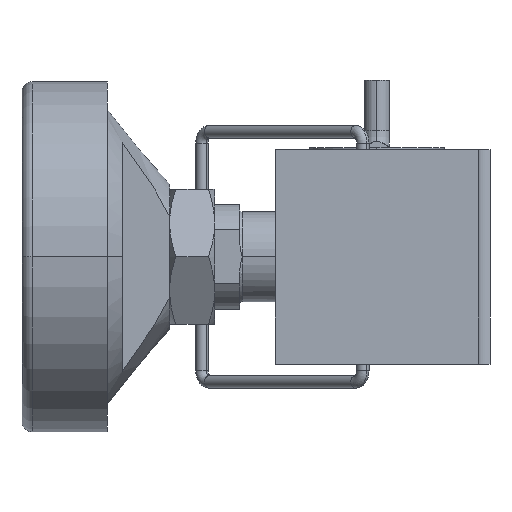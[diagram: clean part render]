
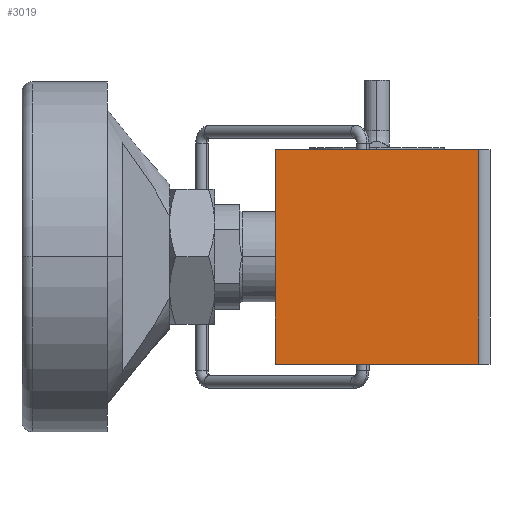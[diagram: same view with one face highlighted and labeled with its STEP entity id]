
A CAD part, left-side view. The second image highlights one B-rep face of the part: STEP entity #3019.
In plain terms, the highlighted planar face has unit normal (-1, 0, 0).
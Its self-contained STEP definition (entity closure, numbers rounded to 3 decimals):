
#649=DIRECTION('',(0.,1.,0.));
#650=VECTOR('',#649,40.488);
#651=CARTESIAN_POINT('',(0.,2.388,21.438));
#652=LINE('',#651,#650);
#780=DIRECTION('',(0.,1.,0.));
#781=VECTOR('',#780,40.488);
#782=CARTESIAN_POINT('',(0.,2.388,-21.438));
#783=LINE('',#782,#781);
#784=DIRECTION('',(0.,0.,-1.));
#785=VECTOR('',#784,42.875);
#786=CARTESIAN_POINT('',(0.,2.388,21.438));
#787=LINE('',#786,#785);
#792=DIRECTION('',(0.,0.,-1.));
#793=VECTOR('',#792,42.875);
#794=CARTESIAN_POINT('',(0.,42.875,21.438));
#795=LINE('',#794,#793);
#1774=CARTESIAN_POINT('',(0.,2.388,-21.438));
#1776=VERTEX_POINT('',#1774);
#1783=CARTESIAN_POINT('',(0.,42.875,-21.438));
#1784=VERTEX_POINT('',#1783);
#1803=CARTESIAN_POINT('',(0.,2.388,21.438));
#1804=VERTEX_POINT('',#1803);
#1805=CARTESIAN_POINT('',(0.,42.875,21.438));
#1806=VERTEX_POINT('',#1805);
#3007=CARTESIAN_POINT('',(0.,42.875,-21.438));
#3008=DIRECTION('',(-1.,0.,0.));
#3009=DIRECTION('',(0.,-1.,0.));
#3010=AXIS2_PLACEMENT_3D('',#3007,#3008,#3009);
#3011=PLANE('',#3010);
#3012=ORIENTED_EDGE('',*,*,#2977,.T.);
#3014=ORIENTED_EDGE('',*,*,#3013,.F.);
#3015=ORIENTED_EDGE('',*,*,#2890,.F.);
#3016=ORIENTED_EDGE('',*,*,#3001,.T.);
#3017=EDGE_LOOP('',(#3012,#3014,#3015,#3016));
#3018=FACE_OUTER_BOUND('',#3017,.F.);
#3019=ADVANCED_FACE('',(#3018),#3011,.T.);
#2890=EDGE_CURVE('',#1804,#1806,#652,.T.);
#2977=EDGE_CURVE('',#1776,#1784,#783,.T.);
#3001=EDGE_CURVE('',#1804,#1776,#787,.T.);
#3013=EDGE_CURVE('',#1806,#1784,#795,.T.);
